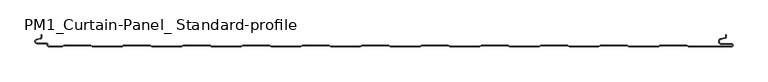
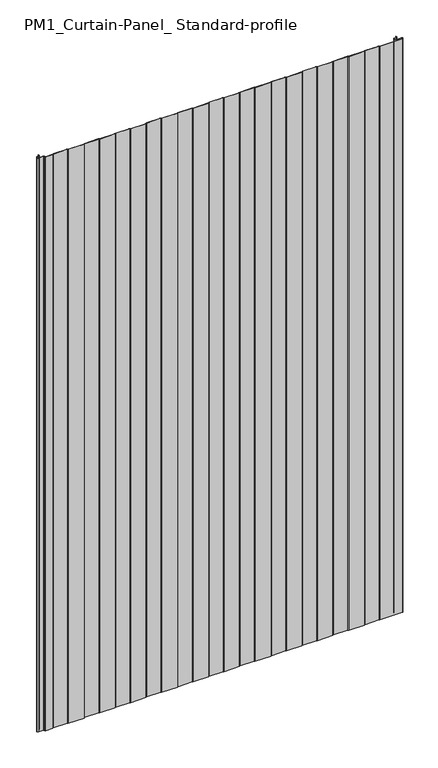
"""IFC4 building model written with IfcOpenShell, lengths in millimetres: plate geometry, PM1_Curtain-Panel_ Standard-profile : ACH_PM1_Acoustic-Sectioning-Panel_120M."""

from ifc_helpers import new_model, si_unit, frame, origin, place, context, project, spatial, polyline, circle_curve, source, transform, mapped, element, save
from ifc_brep_helpers import plane_surface, cylinder_surface, revolved_surface, advanced_brep


def pm1_curtain_panel_standard_profile_5ba5febf(model_context):
    return source(origin(), model_context, "Body", "AdvancedBrep", [
        advanced_brep(
        [(-562.4, -120.0, 1945.7507136), (-539.3999999, -120.0, 1945.7507136), (-536.8019223, -118.5, 1945.7507136), (-492.0019247, -118.5, 1945.7507136), (-489.4038471, -120.0, 1945.7507136), (-439.3999999, -120.0, 1945.7507136), (-436.8019223, -118.5, 1945.7507136), (-392.0019247, -118.5, 1945.7507136), (-389.4038471, -120.0, 1945.7507136), (-339.3999999, -120.0, 1945.7507136), (-336.8019223, -118.5, 1945.7507136), (-292.0019247, -118.5, 1945.7507136), (-289.4038471, -120.0, 1945.7507136), (-239.3999999, -120.0, 1945.7507136), (-236.8019223, -118.5, 1945.7507136), (-192.0019247, -118.5, 1945.7507136), (-189.4038471, -120.0, 1945.7507136), (-139.3999999, -120.0, 1945.7507136), (-136.8019223, -118.5, 1945.7507136), (-92.0019247, -118.5, 1945.7507136), (-89.4038471, -120.0, 1945.7507136), (-39.3999999, -120.0, 1945.7507136), (-36.8019223, -118.5, 1945.7507136), (7.9980753, -118.5, 1945.7507136), (10.5961529, -120.0, 1945.7507136), (60.6000001, -120.0, 1945.7507136), (63.1980777, -118.5, 1945.7507136), (107.9980753, -118.5, 1945.7507136), (110.5961529, -120.0, 1945.7507136), (160.6000001, -120.0, 1945.7507136), (163.1980777, -118.5, 1945.7507136), (207.9980753, -118.5, 1945.7507136), (210.5961529, -120.0, 1945.7507136), (260.6000001, -120.0, 1945.7507136), (263.1980777, -118.5, 1945.7507136), (307.9980753, -118.5, 1945.7507136), (310.5961529, -120.0, 1945.7507136), (360.6000001, -120.0, 1945.7507136), (363.1980777, -118.5, 1945.7507136), (407.9980753, -118.5, 1945.7507136), (410.5961529, -120.0, 1945.7507136), (460.6000001, -120.0, 1945.7507136), (463.1980777, -118.5, 1945.7507136), (507.9980753, -118.5, 1945.7507136), (510.5961529, -120.0, 1945.7507136), (583.1, -120.0, 1945.7507136), (585.6, -117.5, 1945.7507136), (583.1, -115.0, 1945.7507136), (566.1, -115.0, 1945.7507136), (565.4054075, -107.060769, 1945.7507136), (571.8514851, -105.924152, 1945.7507136), (574.0, -103.363652, 1945.7507136), (574.0, -100.0, 1945.7507136), (573.2, -100.0, 1945.7507136), (573.2, -103.363652, 1945.7507136), (571.7125666, -105.136306, 1945.7507136), (565.266489, -106.2729229, 1945.7507136), (566.1, -115.8, 1945.7507136), (583.1, -115.8, 1945.7507136), (583.1, -119.2, 1945.7507136), (510.8105122, -119.2, 1945.7507136), (508.2124346, -117.7, 1945.7507136), (462.9837184, -117.7, 1945.7507136), (460.3856408, -119.2, 1945.7507136), (410.8105122, -119.2, 1945.7507136), (408.2124346, -117.7, 1945.7507136), (362.9837184, -117.7, 1945.7507136), (360.3856408, -119.2, 1945.7507136), (310.8105122, -119.2, 1945.7507136), (308.2124346, -117.7, 1945.7507136), (262.9837184, -117.7, 1945.7507136), (260.3856408, -119.2, 1945.7507136), (210.8105122, -119.2, 1945.7507136), (208.2124346, -117.7, 1945.7507136), (162.9837184, -117.7, 1945.7507136), (160.3856408, -119.2, 1945.7507136), (110.8105122, -119.2, 1945.7507136), (108.2124346, -117.7, 1945.7507136), (62.9837184, -117.7, 1945.7507136), (60.3856408, -119.2, 1945.7507136), (10.8105122, -119.2, 1945.7507136), (8.2124346, -117.7, 1945.7507136), (-37.0162816, -117.7, 1945.7507136), (-39.6143592, -119.2, 1945.7507136), (-89.1894878, -119.2, 1945.7507136), (-91.7875654, -117.7, 1945.7507136), (-137.0162816, -117.7, 1945.7507136), (-139.6143592, -119.2, 1945.7507136), (-189.1894878, -119.2, 1945.7507136), (-191.7875654, -117.7, 1945.7507136), (-237.0162816, -117.7, 1945.7507136), (-239.6143592, -119.2, 1945.7507136), (-289.1894878, -119.2, 1945.7507136), (-291.7875654, -117.7, 1945.7507136), (-337.0162816, -117.7, 1945.7507136), (-339.6143592, -119.2, 1945.7507136), (-389.1894878, -119.2, 1945.7507136), (-391.7875654, -117.7, 1945.7507136), (-437.0162816, -117.7, 1945.7507136), (-439.6143592, -119.2, 1945.7507136), (-489.1894878, -119.2, 1945.7507136), (-491.7875654, -117.7, 1945.7507136), (-537.0162816, -117.7, 1945.7507136), (-539.6143592, -119.2, 1945.7507136), (-562.4, -119.2, 1945.7507136), (-563.6, -118.0, 1945.7507136), (-563.6, -116.6, 1945.7507136), (-566.4, -113.8, 1945.7507136), (-581.9, -113.8, 1945.7507136), (-582.529863, -108.2717638, 1945.7507136), (-576.370137, -106.849679, 1945.7507136), (-574.2, -104.121443, 1945.7507136), (-574.2, -100.0, 1945.7507136), (-575.0, -100.0, 1945.7507136), (-575.0, -104.121443, 1945.7507136), (-576.5500978, -106.0701831, 1945.7507136), (-582.7098239, -107.492268, 1945.7507136), (-581.9, -114.6, 1945.7507136), (-566.4, -114.6, 1945.7507136), (-564.4, -116.6, 1945.7507136), (-564.4, -118.0, 1945.7507136), (-562.4, -120.0, 0.0), (-564.4, -118.0, 0.0), (-564.4, -116.6, 0.0), (-566.4, -114.6, 0.0), (-581.9, -114.6, 0.0), (-582.7098239, -107.4922678, 0.0), (-576.5500979, -106.070183, 0.0), (-575.0, -104.121443, 0.0), (-575.0, -100.0, 0.0), (-574.2, -100.0, 0.0), (-574.2, -104.121443, 0.0), (-576.370137, -106.8496792, 0.0), (-582.529863, -108.271764, 0.0), (-581.9, -113.8, 0.0), (-566.4, -113.8, 0.0), (-563.6, -116.6, 0.0), (-563.6, -118.0, 0.0), (-562.4, -119.2, 0.0), (-539.6143592, -119.2, 0.0), (-537.0162816, -117.7, 0.0), (-491.7875654, -117.7, 0.0), (-489.1894878, -119.2, 0.0), (-439.6143592, -119.2, 0.0), (-437.0162816, -117.7, 0.0), (-391.7875654, -117.7, 0.0), (-389.1894878, -119.2, 0.0), (-339.6143592, -119.2, 0.0), (-337.0162816, -117.7, 0.0), (-291.7875654, -117.7, 0.0), (-289.1894878, -119.2, 0.0), (-239.6143592, -119.2, 0.0), (-237.0162816, -117.7, 0.0), (-191.7875654, -117.7, 0.0), (-189.1894878, -119.2, 0.0), (-139.6143592, -119.2, 0.0), (-137.0162816, -117.7, 0.0), (-91.7875654, -117.7, 0.0), (-89.1894878, -119.2, 0.0), (-39.6143592, -119.2, 0.0), (-37.0162816, -117.7, 0.0), (8.2124346, -117.7, 0.0), (10.8105122, -119.2, 0.0), (60.3856408, -119.2, 0.0), (62.9837184, -117.7, 0.0), (108.2124346, -117.7, 0.0), (110.8105122, -119.2, 0.0), (160.3856408, -119.2, 0.0), (162.9837184, -117.7, 0.0), (208.2124346, -117.7, 0.0), (210.8105122, -119.2, 0.0), (260.3856408, -119.2, 0.0), (262.9837184, -117.7, 0.0), (308.2124346, -117.7, 0.0), (310.8105122, -119.2, 0.0), (360.3856408, -119.2, 0.0), (362.9837184, -117.7, 0.0), (408.2124346, -117.7, 0.0), (410.8105122, -119.2, 0.0), (460.3856408, -119.2, 0.0), (462.9837184, -117.7, 0.0), (508.2124346, -117.7, 0.0), (510.8105122, -119.2, 0.0), (583.1, -119.2, 0.0), (583.1, -115.8, 0.0), (566.1, -115.8, 0.0), (565.266489, -106.2729227, 0.0), (571.7125666, -105.1363058, 0.0), (573.2, -103.363652, 0.0), (573.2, -100.0, 0.0), (574.0, -100.0, 0.0), (574.0, -103.363652, 0.0), (571.8514851, -105.9241522, 0.0), (565.4054075, -107.0607691, 0.0), (566.1, -115.0, 0.0), (583.1, -115.0, 0.0), (585.6, -117.5, 0.0), (583.1, -120.0, 0.0), (510.5961529, -120.0, 0.0), (507.9980753, -118.5, 0.0), (463.1980777, -118.5, 0.0), (460.6000001, -120.0, 0.0), (410.5961529, -120.0, 0.0), (407.9980753, -118.5, 0.0), (363.1980777, -118.5, 0.0), (360.6000001, -120.0, 0.0), (310.5961529, -120.0, 0.0), (307.9980753, -118.5, 0.0), (263.1980777, -118.5, 0.0), (260.6000001, -120.0, 0.0), (210.5961529, -120.0, 0.0), (207.9980753, -118.5, 0.0), (163.1980777, -118.5, 0.0), (160.6000001, -120.0, 0.0), (110.5961529, -120.0, 0.0), (107.9980753, -118.5, 0.0), (63.1980777, -118.5, 0.0), (60.6000001, -120.0, 0.0), (10.5961529, -120.0, 0.0), (7.9980753, -118.5, 0.0), (-36.8019223, -118.5, 0.0), (-39.3999999, -120.0, 0.0), (-89.4038471, -120.0, 0.0), (-92.0019247, -118.5, 0.0), (-136.8019223, -118.5, 0.0), (-139.3999999, -120.0, 0.0), (-189.4038471, -120.0, 0.0), (-192.0019247, -118.5, 0.0), (-236.8019223, -118.5, 0.0), (-239.3999999, -120.0, 0.0), (-289.4038471, -120.0, 0.0), (-292.0019247, -118.5, 0.0), (-336.8019223, -118.5, 0.0), (-339.3999999, -120.0, 0.0), (-389.4038471, -120.0, 0.0), (-392.0019247, -118.5, 0.0), (-436.8019223, -118.5, 0.0), (-439.3999999, -120.0, 0.0), (-489.4038471, -120.0, 0.0), (-492.0019247, -118.5, 0.0), (-536.8019223, -118.5, 0.0), (-539.3999999, -120.0, 0.0)],
        [
            (0, 1),
            (1, 2),
            (2, 3),
            (3, 4),
            (4, 5),
            (5, 6),
            (6, 7),
            (7, 8),
            (8, 9),
            (9, 10),
            (10, 11),
            (11, 12),
            (12, 13),
            (13, 14),
            (14, 15),
            (15, 16),
            (16, 17),
            (17, 18),
            (18, 19),
            (19, 20),
            (20, 21),
            (21, 22),
            (22, 23),
            (23, 24),
            (24, 25),
            (25, 26),
            (26, 27),
            (27, 28),
            (28, 29),
            (29, 30),
            (30, 31),
            (31, 32),
            (32, 33),
            (33, 34),
            (34, 35),
            (35, 36),
            (36, 37),
            (37, 38),
            (38, 39),
            (39, 40),
            (40, 41),
            (41, 42),
            (42, 43),
            (43, 44),
            (44, 45),
            (45, 46, circle_curve(frame((583.1, -117.5, 1945.7507136), z_axis=(0.0, 0.0, 1.0), x_axis=(1.0, 0.0, 0.0)), 2.5)),
            (46, 47, circle_curve(frame((583.1, -117.5, 1945.7507136), z_axis=(0.0, 0.0, 1.0), x_axis=(1.0, 0.0, 0.0)), 2.5)),
            (47, 48),
            (48, 49, circle_curve(frame((566.1, -111.0, 1945.7507136), z_axis=(0.0, 0.0, -1.0), x_axis=(1.0, 0.0, 0.0)), 4.0)),
            (49, 50),
            (50, 51, circle_curve(frame((571.4, -103.363652, 1945.7507136), z_axis=(0.0, 0.0, 1.0), x_axis=(1.0, 0.0, 0.0)), 2.6)),
            (51, 52),
            (52, 53),
            (53, 54),
            (54, 55, circle_curve(frame((571.4, -103.363652, 1945.7507136), z_axis=(0.0, 0.0, -1.0), x_axis=(1.0, 0.0, 0.0)), 1.8)),
            (55, 56),
            (56, 57, circle_curve(frame((566.1, -111.0, 1945.7507136), z_axis=(0.0, 0.0, 1.0), x_axis=(1.0, 0.0, 0.0)), 4.8)),
            (57, 58),
            (58, 59, circle_curve(frame((583.1, -117.5, 1945.7507136), z_axis=(0.0, 0.0, -1.0), x_axis=(1.0, 0.0, 0.0)), 1.7)),
            (59, 60),
            (60, 61),
            (61, 62),
            (62, 63),
            (63, 64),
            (64, 65),
            (65, 66),
            (66, 67),
            (67, 68),
            (68, 69),
            (69, 70),
            (70, 71),
            (71, 72),
            (72, 73),
            (73, 74),
            (74, 75),
            (75, 76),
            (76, 77),
            (77, 78),
            (78, 79),
            (79, 80),
            (80, 81),
            (81, 82),
            (82, 83),
            (83, 84),
            (84, 85),
            (85, 86),
            (86, 87),
            (87, 88),
            (88, 89),
            (89, 90),
            (90, 91),
            (91, 92),
            (92, 93),
            (93, 94),
            (94, 95),
            (95, 96),
            (96, 97),
            (97, 98),
            (98, 99),
            (99, 100),
            (100, 101),
            (101, 102),
            (102, 103),
            (103, 104),
            (104, 105, circle_curve(frame((-562.4, -118.0, 1945.7507136), z_axis=(0.0, 0.0, -1.0), x_axis=(1.0, 0.0, 0.0)), 1.2)),
            (105, 106),
            (106, 107, circle_curve(frame((-566.4, -116.6, 1945.7507136), z_axis=(0.0, 0.0, 1.0), x_axis=(1.0, 0.0, 0.0)), 2.8)),
            (107, 108),
            (108, 109, circle_curve(frame((-581.9, -111.0, 1945.7507136), z_axis=(0.0, 0.0, -1.0), x_axis=(1.0, 0.0, 0.0)), 2.8)),
            (109, 110),
            (110, 111, circle_curve(frame((-577.0, -104.121443, 1945.7507136), z_axis=(0.0, 0.0, 1.0), x_axis=(1.0, 0.0, 0.0)), 2.8)),
            (111, 112),
            (112, 113),
            (113, 114),
            (114, 115, circle_curve(frame((-577.0, -104.121443, 1945.7507136), z_axis=(0.0, 0.0, -1.0), x_axis=(1.0, 0.0, 0.0)), 2.0)),
            (115, 116),
            (116, 117, circle_curve(frame((-581.9, -111.0, 1945.7507136), z_axis=(0.0, 0.0, 1.0), x_axis=(1.0, 0.0, 0.0)), 3.6)),
            (117, 118),
            (118, 119, circle_curve(frame((-566.4, -116.6, 1945.7507136), z_axis=(0.0, 0.0, -1.0), x_axis=(1.0, 0.0, 0.0)), 2.0)),
            (119, 120),
            (120, 0, circle_curve(frame((-562.4, -118.0, 1945.7507136), z_axis=(0.0, 0.0, 1.0), x_axis=(1.0, 0.0, 0.0)), 2.0)),
            (121, 122, circle_curve(frame((-562.4, -118.0, 0.0), z_axis=(0.0, 0.0, -1.0), x_axis=(1.0, 0.0, 0.0)), 2.0)),
            (122, 123),
            (123, 124, circle_curve(frame((-566.4, -116.6, 0.0), z_axis=(0.0, 0.0, 1.0), x_axis=(1.0, 0.0, 0.0)), 2.0)),
            (124, 125),
            (125, 126, circle_curve(frame((-581.9, -111.0, 0.0), z_axis=(0.0, 0.0, -1.0), x_axis=(1.0, 0.0, 0.0)), 3.6)),
            (126, 127),
            (127, 128, circle_curve(frame((-577.0, -104.121443, 0.0), z_axis=(0.0, 0.0, 1.0), x_axis=(1.0, 0.0, 0.0)), 2.0)),
            (128, 129),
            (129, 130),
            (130, 131),
            (131, 132, circle_curve(frame((-577.0, -104.121443, 0.0), z_axis=(0.0, 0.0, -1.0), x_axis=(1.0, 0.0, 0.0)), 2.8)),
            (132, 133),
            (133, 134, circle_curve(frame((-581.9, -111.0, 0.0), z_axis=(0.0, 0.0, 1.0), x_axis=(1.0, 0.0, 0.0)), 2.8)),
            (134, 135),
            (135, 136, circle_curve(frame((-566.4, -116.6, 0.0), z_axis=(0.0, 0.0, -1.0), x_axis=(1.0, 0.0, 0.0)), 2.8)),
            (136, 137),
            (137, 138, circle_curve(frame((-562.4, -118.0, 0.0), z_axis=(0.0, 0.0, 1.0), x_axis=(1.0, 0.0, 0.0)), 1.2)),
            (138, 139),
            (139, 140),
            (140, 141),
            (141, 142),
            (142, 143),
            (143, 144),
            (144, 145),
            (145, 146),
            (146, 147),
            (147, 148),
            (148, 149),
            (149, 150),
            (150, 151),
            (151, 152),
            (152, 153),
            (153, 154),
            (154, 155),
            (155, 156),
            (156, 157),
            (157, 158),
            (158, 159),
            (159, 160),
            (160, 161),
            (161, 162),
            (162, 163),
            (163, 164),
            (164, 165),
            (165, 166),
            (166, 167),
            (167, 168),
            (168, 169),
            (169, 170),
            (170, 171),
            (171, 172),
            (172, 173),
            (173, 174),
            (174, 175),
            (175, 176),
            (176, 177),
            (177, 178),
            (178, 179),
            (179, 180),
            (180, 181),
            (181, 182),
            (182, 183),
            (183, 184, circle_curve(frame((583.1, -117.5, 0.0), z_axis=(0.0, 0.0, 1.0), x_axis=(1.0, 0.0, 0.0)), 1.7)),
            (184, 185),
            (185, 186, circle_curve(frame((566.1, -111.0, 0.0), z_axis=(0.0, 0.0, -1.0), x_axis=(1.0, 0.0, 0.0)), 4.8)),
            (186, 187),
            (187, 188, circle_curve(frame((571.4, -103.363652, 0.0), z_axis=(0.0, 0.0, 1.0), x_axis=(1.0, 0.0, 0.0)), 1.8)),
            (188, 189),
            (189, 190),
            (190, 191),
            (191, 192, circle_curve(frame((571.4, -103.363652, 0.0), z_axis=(0.0, 0.0, -1.0), x_axis=(1.0, 0.0, 0.0)), 2.6)),
            (192, 193),
            (193, 194, circle_curve(frame((566.1, -111.0, 0.0), z_axis=(0.0, 0.0, 1.0), x_axis=(1.0, 0.0, 0.0)), 4.0)),
            (194, 195),
            (195, 196, circle_curve(frame((583.1, -117.5, 0.0), z_axis=(0.0, 0.0, -1.0), x_axis=(1.0, 0.0, 0.0)), 2.5)),
            (196, 197, circle_curve(frame((583.1, -117.5, 0.0), z_axis=(0.0, 0.0, -1.0), x_axis=(1.0, 0.0, 0.0)), 2.5)),
            (197, 198),
            (198, 199),
            (199, 200),
            (200, 201),
            (201, 202),
            (202, 203),
            (203, 204),
            (204, 205),
            (205, 206),
            (206, 207),
            (207, 208),
            (208, 209),
            (209, 210),
            (210, 211),
            (211, 212),
            (212, 213),
            (213, 214),
            (214, 215),
            (215, 216),
            (216, 217),
            (217, 218),
            (218, 219),
            (219, 220),
            (220, 221),
            (221, 222),
            (222, 223),
            (223, 224),
            (224, 225),
            (225, 226),
            (226, 227),
            (227, 228),
            (228, 229),
            (229, 230),
            (230, 231),
            (231, 232),
            (232, 233),
            (233, 234),
            (234, 235),
            (235, 236),
            (236, 237),
            (237, 238),
            (238, 239),
            (239, 240),
            (240, 241),
            (241, 121),
            (0, 121),
            (241, 1),
            (240, 2),
            (239, 3),
            (238, 4),
            (237, 5),
            (236, 6),
            (235, 7),
            (234, 8),
            (233, 9),
            (232, 10),
            (231, 11),
            (230, 12),
            (229, 13),
            (228, 14),
            (227, 15),
            (226, 16),
            (225, 17),
            (224, 18),
            (223, 19),
            (222, 20),
            (221, 21),
            (220, 22),
            (219, 23),
            (218, 24),
            (217, 25),
            (216, 26),
            (215, 27),
            (214, 28),
            (213, 29),
            (212, 30),
            (211, 31),
            (210, 32),
            (209, 33),
            (208, 34),
            (207, 35),
            (206, 36),
            (205, 37),
            (204, 38),
            (203, 39),
            (202, 40),
            (201, 41),
            (200, 42),
            (199, 43),
            (198, 44),
            (197, 45),
            (195, 47),
            (194, 48),
            (193, 49),
            (192, 50),
            (191, 51),
            (190, 52),
            (189, 53),
            (188, 54),
            (187, 55),
            (186, 56),
            (185, 57),
            (184, 58),
            (183, 59),
            (182, 60),
            (181, 61),
            (180, 62),
            (179, 63),
            (178, 64),
            (177, 65),
            (176, 66),
            (175, 67),
            (174, 68),
            (173, 69),
            (172, 70),
            (171, 71),
            (170, 72),
            (169, 73),
            (168, 74),
            (167, 75),
            (166, 76),
            (165, 77),
            (164, 78),
            (163, 79),
            (162, 80),
            (161, 81),
            (160, 82),
            (159, 83),
            (158, 84),
            (157, 85),
            (156, 86),
            (155, 87),
            (154, 88),
            (153, 89),
            (152, 90),
            (151, 91),
            (150, 92),
            (149, 93),
            (148, 94),
            (147, 95),
            (146, 96),
            (145, 97),
            (144, 98),
            (143, 99),
            (142, 100),
            (141, 101),
            (140, 102),
            (139, 103),
            (138, 104),
            (137, 105),
            (136, 106),
            (135, 107),
            (134, 108),
            (133, 109),
            (132, 110),
            (131, 111),
            (130, 112),
            (129, 113),
            (128, 114),
            (127, 115),
            (126, 116),
            (125, 117),
            (124, 118),
            (123, 119),
            (122, 120),
        ],
        [
            plane_surface(frame((-575.0, -120.0, 1945.7507136), z_axis=(0.0, 0.0, 1.0), x_axis=(0.0, 1.0, 0.0))),
            plane_surface(frame((-575.0, -120.0, 0.0), z_axis=(0.0, 0.0, -1.0), x_axis=(0.0, 1.0, 0.0))),
            plane_surface(frame((-562.4, -120.0, 1945.7507136), z_axis=(0.0, -1.0, 0.0), x_axis=(0.0, 0.0, -1.0))),
            plane_surface(frame((-539.3999999, -120.0, 1945.7507136), z_axis=(0.49999979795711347, -0.8660255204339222, 0.0), x_axis=(0.0, 0.0, -1.0))),
            plane_surface(frame((-536.8019223, -118.5, 1945.7507136), z_axis=(0.0, -1.0, 0.0), x_axis=(0.0, 0.0, -1.0))),
            plane_surface(frame((-492.0019247, -118.5, 1945.7507136), z_axis=(-0.49999979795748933, -0.8660255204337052, 0.0), x_axis=(0.0, 0.0, -1.0))),
            plane_surface(frame((-489.4038471, -120.0, 1945.7507136), z_axis=(0.0, -1.0, 0.0), x_axis=(0.0, 0.0, -1.0))),
            plane_surface(frame((-439.3999999, -120.0, 1945.7507136), z_axis=(0.49999979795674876, -0.8660255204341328, 0.0), x_axis=(0.0, 0.0, -1.0))),
            plane_surface(frame((-436.8019223, -118.5, 1945.7507136), z_axis=(0.0, -1.0, 0.0), x_axis=(0.0, 0.0, -1.0))),
            plane_surface(frame((-392.0019247, -118.5, 1945.7507136), z_axis=(-0.4999997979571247, -0.8660255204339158, 0.0), x_axis=(0.0, 0.0, -1.0))),
            plane_surface(frame((-389.4038471, -120.0, 1945.7507136), z_axis=(0.0, -1.0, 0.0), x_axis=(0.0, 0.0, -1.0))),
            plane_surface(frame((-339.3999999, -120.0, 1945.7507136), z_axis=(0.49999979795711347, -0.8660255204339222, 0.0), x_axis=(0.0, 0.0, -1.0))),
            plane_surface(frame((-336.8019223, -118.5, 1945.7507136), z_axis=(0.0, -1.0, 0.0), x_axis=(0.0, 0.0, -1.0))),
            plane_surface(frame((-292.0019247, -118.5, 1945.7507136), z_axis=(-0.4999997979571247, -0.8660255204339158, 0.0), x_axis=(0.0, 0.0, -1.0))),
            plane_surface(frame((-289.4038471, -120.0, 1945.7507136), z_axis=(0.0, -1.0, 0.0), x_axis=(0.0, 0.0, -1.0))),
            plane_surface(frame((-239.3999999, -120.0, 1945.7507136), z_axis=(0.49999979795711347, -0.8660255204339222, 0.0), x_axis=(0.0, 0.0, -1.0))),
            plane_surface(frame((-236.8019223, -118.5, 1945.7507136), z_axis=(0.0, -1.0, 0.0), x_axis=(0.0, 0.0, -1.0))),
            plane_surface(frame((-192.0019247, -118.5, 1945.7507136), z_axis=(-0.49999979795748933, -0.8660255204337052, 0.0), x_axis=(0.0, 0.0, -1.0))),
            plane_surface(frame((-189.4038471, -120.0, 1945.7507136), z_axis=(0.0, -1.0, 0.0), x_axis=(0.0, 0.0, -1.0))),
            plane_surface(frame((-139.3999999, -120.0, 1945.7507136), z_axis=(0.49999979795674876, -0.8660255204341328, 0.0), x_axis=(0.0, 0.0, -1.0))),
            plane_surface(frame((-136.8019223, -118.5, 1945.7507136), z_axis=(0.0, -1.0, 0.0), x_axis=(0.0, 0.0, -1.0))),
            plane_surface(frame((-92.0019247, -118.5, 1945.7507136), z_axis=(-0.4999997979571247, -0.8660255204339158, 0.0), x_axis=(0.0, 0.0, -1.0))),
            plane_surface(frame((-89.4038471, -120.0, 1945.7507136), z_axis=(0.0, -1.0, 0.0), x_axis=(0.0, 0.0, -1.0))),
            plane_surface(frame((-39.3999999, -120.0, 1945.7507136), z_axis=(0.49999979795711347, -0.8660255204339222, 0.0), x_axis=(0.0, 0.0, -1.0))),
            plane_surface(frame((-36.8019223, -118.5, 1945.7507136), z_axis=(0.0, -1.0, 0.0), x_axis=(0.0, 0.0, -1.0))),
            plane_surface(frame((7.9980753, -118.5, 1945.7507136), z_axis=(-0.4999997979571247, -0.8660255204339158, 0.0), x_axis=(0.0, 0.0, -1.0))),
            plane_surface(frame((10.5961529, -120.0, 1945.7507136), z_axis=(0.0, -1.0, 0.0), x_axis=(0.0, 0.0, -1.0))),
            plane_surface(frame((60.6000001, -120.0, 1945.7507136), z_axis=(0.49999979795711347, -0.8660255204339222, 0.0), x_axis=(0.0, 0.0, -1.0))),
            plane_surface(frame((63.1980777, -118.5, 1945.7507136), z_axis=(0.0, -1.0, 0.0), x_axis=(0.0, 0.0, -1.0))),
            plane_surface(frame((107.9980753, -118.5, 1945.7507136), z_axis=(-0.49999979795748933, -0.8660255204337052, 0.0), x_axis=(0.0, 0.0, -1.0))),
            plane_surface(frame((110.5961529, -120.0, 1945.7507136), z_axis=(0.0, -1.0, 0.0), x_axis=(0.0, 0.0, -1.0))),
            plane_surface(frame((160.6000001, -120.0, 1945.7507136), z_axis=(0.49999979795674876, -0.8660255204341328, 0.0), x_axis=(0.0, 0.0, -1.0))),
            plane_surface(frame((163.1980777, -118.5, 1945.7507136), z_axis=(0.0, -1.0, 0.0), x_axis=(0.0, 0.0, -1.0))),
            plane_surface(frame((207.9980753, -118.5, 1945.7507136), z_axis=(-0.4999997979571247, -0.8660255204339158, 0.0), x_axis=(0.0, 0.0, -1.0))),
            plane_surface(frame((210.5961529, -120.0, 1945.7507136), z_axis=(0.0, -1.0, 0.0), x_axis=(0.0, 0.0, -1.0))),
            plane_surface(frame((260.6000001, -120.0, 1945.7507136), z_axis=(0.49999979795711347, -0.8660255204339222, 0.0), x_axis=(0.0, 0.0, -1.0))),
            plane_surface(frame((263.1980777, -118.5, 1945.7507136), z_axis=(0.0, -1.0, 0.0), x_axis=(0.0, 0.0, -1.0))),
            plane_surface(frame((307.9980753, -118.5, 1945.7507136), z_axis=(-0.4999997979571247, -0.8660255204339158, 0.0), x_axis=(0.0, 0.0, -1.0))),
            plane_surface(frame((310.5961529, -120.0, 1945.7507136), z_axis=(0.0, -1.0, 0.0), x_axis=(0.0, 0.0, -1.0))),
            plane_surface(frame((360.6000001, -120.0, 1945.7507136), z_axis=(0.49999979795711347, -0.8660255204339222, 0.0), x_axis=(0.0, 0.0, -1.0))),
            plane_surface(frame((363.1980777, -118.5, 1945.7507136), z_axis=(0.0, -1.0, 0.0), x_axis=(0.0, 0.0, -1.0))),
            plane_surface(frame((407.9980753, -118.5, 1945.7507136), z_axis=(-0.49999979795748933, -0.8660255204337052, 0.0), x_axis=(0.0, 0.0, -1.0))),
            plane_surface(frame((410.5961529, -120.0, 1945.7507136), z_axis=(0.0, -1.0, 0.0), x_axis=(0.0, 0.0, -1.0))),
            plane_surface(frame((460.6000001, -120.0, 1945.7507136), z_axis=(0.49999979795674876, -0.8660255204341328, 0.0), x_axis=(0.0, 0.0, -1.0))),
            plane_surface(frame((463.1980777, -118.5, 1945.7507136), z_axis=(0.0, -1.0, 0.0), x_axis=(0.0, 0.0, -1.0))),
            plane_surface(frame((507.9980753, -118.5, 1945.7507136), z_axis=(-0.4999997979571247, -0.8660255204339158, 0.0), x_axis=(0.0, 0.0, -1.0))),
            plane_surface(frame((560.890897, -120.0, 1945.7507136), z_axis=(0.0, -1.0, 0.0), x_axis=(0.0, 0.0, -1.0))),
            cylinder_surface(frame((583.1, -117.5, 1945.7507136), z_axis=(0.0, 0.0, 1.0), x_axis=(1.0, 0.0, 0.0)), 2.5),
            plane_surface(frame((583.1, -115.0, 1945.7507136), z_axis=(0.0, 1.0, 0.0), x_axis=(0.0, 0.0, -1.0))),
            revolved_surface(polyline([(570.1, -111.0, 0.0), (570.1, -111.0, 1945.7507136)]), (566.1, -111.0, 1945.7507136), (0.0, 0.0, -1.0)),
            plane_surface(frame((565.4054075, -107.0607691, 1945.7507136), z_axis=(0.17364813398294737, -0.9848077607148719, 0.0), x_axis=(0.0, 0.0, -1.0))),
            cylinder_surface(frame((571.4, -103.363652, 1945.7507136), z_axis=(0.0, 0.0, 1.0), x_axis=(1.0, 0.0, 0.0)), 2.6),
            plane_surface(frame((574.0, -103.363652, 1945.7507136), z_axis=(1.0, 0.0, 0.0), x_axis=(0.0, 0.0, -1.0))),
            plane_surface(frame((574.0, -100.0, 1945.7507136), z_axis=(0.0, 1.0, 0.0), x_axis=(0.0, 0.0, -1.0))),
            plane_surface(frame((573.2, -100.0, 1945.7507136), z_axis=(-1.0, 0.0, 0.0), x_axis=(0.0, 0.0, -1.0))),
            revolved_surface(polyline([(573.1999999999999, -103.363652, 0.0), (573.1999999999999, -103.363652, 1945.7507136)]), (571.4, -103.363652, 1945.7507136), (0.0, 0.0, -1.0)),
            plane_surface(frame((571.7125666, -105.1363058, 1945.7507136), z_axis=(-0.17364813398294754, 0.9848077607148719, 0.0), x_axis=(0.0, 0.0, -1.0))),
            cylinder_surface(frame((566.1, -111.0, 1945.7507136), z_axis=(0.0, 0.0, 1.0), x_axis=(1.0, 0.0, 0.0)), 4.8),
            plane_surface(frame((566.1, -115.8, 1945.7507136), z_axis=(0.0, -1.0, 0.0), x_axis=(0.0, 0.0, -1.0))),
            revolved_surface(polyline([(584.8000000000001, -117.5, 0.0), (584.8000000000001, -117.5, 1945.7507136)]), (583.1, -117.5, 1945.7507136), (0.0, 0.0, -1.0)),
            plane_surface(frame((560.890897, -119.2, 1945.7507136), z_axis=(0.0, 1.0, 0.0), x_axis=(0.0, 0.0, -1.0))),
            plane_surface(frame((510.8105122, -119.2, 1945.7507136), z_axis=(0.49999979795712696, 0.8660255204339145, 0.0), x_axis=(0.0, 0.0, -1.0))),
            plane_surface(frame((508.2124346, -117.7, 1945.7507136), z_axis=(0.0, 1.0, 0.0), x_axis=(0.0, 0.0, -1.0))),
            plane_surface(frame((462.9837184, -117.7, 1945.7507136), z_axis=(-0.4999997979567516, 0.8660255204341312, 0.0), x_axis=(0.0, 0.0, -1.0))),
            plane_surface(frame((460.3856408, -119.2, 1945.7507136), z_axis=(0.0, 1.0, 0.0), x_axis=(0.0, 0.0, -1.0))),
            plane_surface(frame((410.8105122, -119.2, 1945.7507136), z_axis=(0.4999997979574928, 0.8660255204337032, 0.0), x_axis=(0.0, 0.0, -1.0))),
            plane_surface(frame((408.2124346, -117.7, 1945.7507136), z_axis=(0.0, 1.0, 0.0), x_axis=(0.0, 0.0, -1.0))),
            plane_surface(frame((362.9837184, -117.7, 1945.7507136), z_axis=(-0.49999979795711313, 0.8660255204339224, 0.0), x_axis=(0.0, 0.0, -1.0))),
            plane_surface(frame((360.3856408, -119.2, 1945.7507136), z_axis=(0.0, 1.0, 0.0), x_axis=(0.0, 0.0, -1.0))),
            plane_surface(frame((310.8105122, -119.2, 1945.7507136), z_axis=(0.4999997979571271, 0.8660255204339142, 0.0), x_axis=(0.0, 0.0, -1.0))),
            plane_surface(frame((308.2124346, -117.7, 1945.7507136), z_axis=(0.0, 1.0, 0.0), x_axis=(0.0, 0.0, -1.0))),
            plane_surface(frame((262.9837184, -117.7, 1945.7507136), z_axis=(-0.49999979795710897, 0.8660255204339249, 0.0), x_axis=(0.0, 0.0, -1.0))),
            plane_surface(frame((260.3856408, -119.2, 1945.7507136), z_axis=(0.0, 1.0, 0.0), x_axis=(0.0, 0.0, -1.0))),
            plane_surface(frame((210.8105122, -119.2, 1945.7507136), z_axis=(0.4999997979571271, 0.8660255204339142, 0.0), x_axis=(0.0, 0.0, -1.0))),
            plane_surface(frame((208.2124346, -117.7, 1945.7507136), z_axis=(0.0, 1.0, 0.0), x_axis=(0.0, 0.0, -1.0))),
            plane_surface(frame((162.9837184, -117.7, 1945.7507136), z_axis=(-0.4999997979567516, 0.8660255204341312, 0.0), x_axis=(0.0, 0.0, -1.0))),
            plane_surface(frame((160.3856408, -119.2, 1945.7507136), z_axis=(0.0, 1.0, 0.0), x_axis=(0.0, 0.0, -1.0))),
            plane_surface(frame((110.8105122, -119.2, 1945.7507136), z_axis=(0.49999979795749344, 0.8660255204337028, 0.0), x_axis=(0.0, 0.0, -1.0))),
            plane_surface(frame((108.2124346, -117.7, 1945.7507136), z_axis=(0.0, 1.0, 0.0), x_axis=(0.0, 0.0, -1.0))),
            plane_surface(frame((62.9837184, -117.7, 1945.7507136), z_axis=(-0.49999979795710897, 0.8660255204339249, 0.0), x_axis=(0.0, 0.0, -1.0))),
            plane_surface(frame((60.3856408, -119.2, 1945.7507136), z_axis=(0.0, 1.0, 0.0), x_axis=(0.0, 0.0, -1.0))),
            plane_surface(frame((10.8105122, -119.2, 1945.7507136), z_axis=(0.4999997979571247, 0.8660255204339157, 0.0), x_axis=(0.0, 0.0, -1.0))),
            plane_surface(frame((8.2124346, -117.7, 1945.7507136), z_axis=(0.0, 1.0, 0.0), x_axis=(0.0, 0.0, -1.0))),
            plane_surface(frame((-37.0162816, -117.7, 1945.7507136), z_axis=(-0.49999979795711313, 0.8660255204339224, 0.0), x_axis=(0.0, 0.0, -1.0))),
            plane_surface(frame((-39.6143592, -119.2, 1945.7507136), z_axis=(0.0, 1.0, 0.0), x_axis=(0.0, 0.0, -1.0))),
            plane_surface(frame((-89.1894878, -119.2, 1945.7507136), z_axis=(0.4999997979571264, 0.8660255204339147, 0.0), x_axis=(0.0, 0.0, -1.0))),
            plane_surface(frame((-91.7875654, -117.7, 1945.7507136), z_axis=(0.0, 1.0, 0.0), x_axis=(0.0, 0.0, -1.0))),
            plane_surface(frame((-137.0162816, -117.7, 1945.7507136), z_axis=(-0.49999979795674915, 0.8660255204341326, 0.0), x_axis=(0.0, 0.0, -1.0))),
            plane_surface(frame((-139.6143592, -119.2, 1945.7507136), z_axis=(0.0, 1.0, 0.0), x_axis=(0.0, 0.0, -1.0))),
            plane_surface(frame((-189.1894878, -119.2, 1945.7507136), z_axis=(0.49999979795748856, 0.8660255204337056, 0.0), x_axis=(0.0, 0.0, -1.0))),
            plane_surface(frame((-191.7875654, -117.7, 1945.7507136), z_axis=(0.0, 1.0, 0.0), x_axis=(0.0, 0.0, -1.0))),
            plane_surface(frame((-237.0162816, -117.7, 1945.7507136), z_axis=(-0.4999997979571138, 0.866025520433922, 0.0), x_axis=(0.0, 0.0, -1.0))),
            plane_surface(frame((-239.6143592, -119.2, 1945.7507136), z_axis=(0.0, 1.0, 0.0), x_axis=(0.0, 0.0, -1.0))),
            plane_surface(frame((-289.1894878, -119.2, 1945.7507136), z_axis=(0.49999979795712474, 0.8660255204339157, 0.0), x_axis=(0.0, 0.0, -1.0))),
            plane_surface(frame((-291.7875654, -117.7, 1945.7507136), z_axis=(0.0, 1.0, 0.0), x_axis=(0.0, 0.0, -1.0))),
            plane_surface(frame((-337.0162816, -117.7, 1945.7507136), z_axis=(-0.49999979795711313, 0.8660255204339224, 0.0), x_axis=(0.0, 0.0, -1.0))),
            plane_surface(frame((-339.6143592, -119.2, 1945.7507136), z_axis=(0.0, 1.0, 0.0), x_axis=(0.0, 0.0, -1.0))),
            plane_surface(frame((-389.1894878, -119.2, 1945.7507136), z_axis=(0.49999979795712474, 0.8660255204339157, 0.0), x_axis=(0.0, 0.0, -1.0))),
            plane_surface(frame((-391.7875654, -117.7, 1945.7507136), z_axis=(0.0, 1.0, 0.0), x_axis=(0.0, 0.0, -1.0))),
            plane_surface(frame((-437.0162816, -117.7, 1945.7507136), z_axis=(-0.49999979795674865, 0.8660255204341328, 0.0), x_axis=(0.0, 0.0, -1.0))),
            plane_surface(frame((-439.6143592, -119.2, 1945.7507136), z_axis=(0.0, 1.0, 0.0), x_axis=(0.0, 0.0, -1.0))),
            plane_surface(frame((-489.1894878, -119.2, 1945.7507136), z_axis=(0.49999979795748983, 0.866025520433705, 0.0), x_axis=(0.0, 0.0, -1.0))),
            plane_surface(frame((-491.7875654, -117.7, 1945.7507136), z_axis=(0.0, 1.0, 0.0), x_axis=(0.0, 0.0, -1.0))),
            plane_surface(frame((-537.0162816, -117.7, 1945.7507136), z_axis=(-0.49999979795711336, 0.8660255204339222, 0.0), x_axis=(0.0, 0.0, -1.0))),
            plane_surface(frame((-539.6143592, -119.2, 1945.7507136), z_axis=(0.0, 1.0, 0.0), x_axis=(0.0, 0.0, -1.0))),
            revolved_surface(polyline([(-561.1999999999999, -118.0, 0.0), (-561.1999999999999, -118.0, 1945.7507136)]), (-562.4, -118.0, 1945.7507136), (0.0, 0.0, -1.0)),
            plane_surface(frame((-563.6, -118.0, 1945.7507136), z_axis=(1.0, 0.0, 0.0), x_axis=(0.0, 0.0, -1.0))),
            cylinder_surface(frame((-566.4, -116.6, 1945.7507136), z_axis=(0.0, 0.0, 1.0), x_axis=(1.0, 0.0, 0.0)), 2.8),
            plane_surface(frame((-566.4, -113.8, 1945.7507136), z_axis=(0.0, 1.0, 0.0), x_axis=(0.0, 0.0, -1.0))),
            revolved_surface(polyline([(-579.1, -111.0, 0.0), (-579.1, -111.0, 1945.7507136)]), (-581.9, -111.0, 1945.7507136), (0.0, 0.0, -1.0)),
            plane_surface(frame((-582.529863, -108.271764, 1945.7507136), z_axis=(0.2249510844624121, -0.9743700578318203, 0.0), x_axis=(0.0, 0.0, -1.0))),
            cylinder_surface(frame((-577.0, -104.121443, 1945.7507136), z_axis=(0.0, 0.0, 1.0), x_axis=(1.0, 0.0, 0.0)), 2.8),
            plane_surface(frame((-574.2, -104.121443, 1945.7507136), z_axis=(1.0, 0.0, 0.0), x_axis=(0.0, 0.0, -1.0))),
            plane_surface(frame((-574.2, -100.0, 1945.7507136), z_axis=(0.0, 1.0, 0.0), x_axis=(0.0, 0.0, -1.0))),
            plane_surface(frame((-575.0, -100.0, 1945.7507136), z_axis=(-1.0, 0.0, 0.0), x_axis=(0.0, 0.0, -1.0))),
            revolved_surface(polyline([(-575.0, -104.121443, 0.0), (-575.0, -104.121443, 1945.7507136)]), (-577.0, -104.121443, 1945.7507136), (0.0, 0.0, -1.0)),
            plane_surface(frame((-576.5500979, -106.070183, 1945.7507136), z_axis=(-0.22495108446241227, 0.9743700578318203, 0.0), x_axis=(0.0, 0.0, -1.0))),
            cylinder_surface(frame((-581.9, -111.0, 1945.7507136), z_axis=(0.0, 0.0, 1.0), x_axis=(1.0, 0.0, 0.0)), 3.6),
            plane_surface(frame((-581.9, -114.6, 1945.7507136), z_axis=(0.0, -1.0, 0.0), x_axis=(0.0, 0.0, -1.0))),
            revolved_surface(polyline([(-564.4, -116.6, 0.0), (-564.4, -116.6, 1945.7507136)]), (-566.4, -116.6, 1945.7507136), (0.0, 0.0, -1.0)),
            plane_surface(frame((-564.4, -116.6, 1945.7507136), z_axis=(-1.0, 0.0, 0.0), x_axis=(0.0, 0.0, -1.0))),
            cylinder_surface(frame((-562.4, -118.0, 1945.7507136), z_axis=(0.0, 0.0, 1.0), x_axis=(1.0, 0.0, 0.0)), 2.0),
        ],
        [
            (0, [[1, 2, 3, 4, 5, 6, 7, 8, 9, 10, 11, 12, 13, 14, 15, 16, 17, 18, 19, 20, 21, 22, 23, 24, 25, 26, 27, 28, 29, 30, 31, 32, 33, 34, 35, 36, 37, 38, 39, 40, 41, 42, 43, 44, 45, 46, 47, 48, 49, 50, 51, 52, 53, 54, 55, 56, 57, 58, 59, 60, 61, 62, 63, 64, 65, 66, 67, 68, 69, 70, 71, 72, 73, 74, 75, 76, 77, 78, 79, 80, 81, 82, 83, 84, 85, 86, 87, 88, 89, 90, 91, 92, 93, 94, 95, 96, 97, 98, 99, 100, 101, 102, 103, 104, 105, 106, 107, 108, 109, 110, 111, 112, 113, 114, 115, 116, 117, 118, 119, 120, 121]]),
            (1, [[122, 123, 124, 125, 126, 127, 128, 129, 130, 131, 132, 133, 134, 135, 136, 137, 138, 139, 140, 141, 142, 143, 144, 145, 146, 147, 148, 149, 150, 151, 152, 153, 154, 155, 156, 157, 158, 159, 160, 161, 162, 163, 164, 165, 166, 167, 168, 169, 170, 171, 172, 173, 174, 175, 176, 177, 178, 179, 180, 181, 182, 183, 184, 185, 186, 187, 188, 189, 190, 191, 192, 193, 194, 195, 196, 197, 198, 199, 200, 201, 202, 203, 204, 205, 206, 207, 208, 209, 210, 211, 212, 213, 214, 215, 216, 217, 218, 219, 220, 221, 222, 223, 224, 225, 226, 227, 228, 229, 230, 231, 232, 233, 234, 235, 236, 237, 238, 239, 240, 241, 242]]),
            (2, [[-1, 243, -242, 244]]),
            (3, [[-2, -244, -241, 245]]),
            (4, [[-3, -245, -240, 246]]),
            (5, [[-4, -246, -239, 247]]),
            (6, [[-5, -247, -238, 248]]),
            (7, [[-6, -248, -237, 249]]),
            (8, [[-7, -249, -236, 250]]),
            (9, [[-8, -250, -235, 251]]),
            (10, [[-9, -251, -234, 252]]),
            (11, [[-10, -252, -233, 253]]),
            (12, [[-11, -253, -232, 254]]),
            (13, [[-12, -254, -231, 255]]),
            (14, [[-13, -255, -230, 256]]),
            (15, [[-14, -256, -229, 257]]),
            (16, [[-15, -257, -228, 258]]),
            (17, [[-16, -258, -227, 259]]),
            (18, [[-17, -259, -226, 260]]),
            (19, [[-18, -260, -225, 261]]),
            (20, [[-19, -261, -224, 262]]),
            (21, [[-20, -262, -223, 263]]),
            (22, [[-21, -263, -222, 264]]),
            (23, [[-22, -264, -221, 265]]),
            (24, [[-23, -265, -220, 266]]),
            (25, [[-24, -266, -219, 267]]),
            (26, [[-25, -267, -218, 268]]),
            (27, [[-26, -268, -217, 269]]),
            (28, [[-27, -269, -216, 270]]),
            (29, [[-28, -270, -215, 271]]),
            (30, [[-29, -271, -214, 272]]),
            (31, [[-30, -272, -213, 273]]),
            (32, [[-31, -273, -212, 274]]),
            (33, [[-32, -274, -211, 275]]),
            (34, [[-33, -275, -210, 276]]),
            (35, [[-34, -276, -209, 277]]),
            (36, [[-35, -277, -208, 278]]),
            (37, [[-36, -278, -207, 279]]),
            (38, [[-37, -279, -206, 280]]),
            (39, [[-38, -280, -205, 281]]),
            (40, [[-39, -281, -204, 282]]),
            (41, [[-40, -282, -203, 283]]),
            (42, [[-41, -283, -202, 284]]),
            (43, [[-42, -284, -201, 285]]),
            (44, [[-43, -285, -200, 286]]),
            (45, [[-44, -286, -199, 287]]),
            (46, [[-45, -287, -198, 288]]),
            (47, [[-288, -197, -196, 289, -47, -46]]),
            (48, [[-48, -289, -195, 290]]),
            (49, [[-49, -290, -194, 291]]),
            (50, [[-50, -291, -193, 292]]),
            (51, [[-51, -292, -192, 293]]),
            (52, [[-52, -293, -191, 294]]),
            (53, [[-53, -294, -190, 295]]),
            (54, [[-54, -295, -189, 296]]),
            (55, [[-55, -296, -188, 297]]),
            (56, [[-56, -297, -187, 298]]),
            (57, [[-57, -298, -186, 299]]),
            (58, [[-58, -299, -185, 300]]),
            (59, [[-59, -300, -184, 301]]),
            (60, [[-60, -301, -183, 302]]),
            (61, [[-61, -302, -182, 303]]),
            (62, [[-62, -303, -181, 304]]),
            (63, [[-63, -304, -180, 305]]),
            (64, [[-64, -305, -179, 306]]),
            (65, [[-65, -306, -178, 307]]),
            (66, [[-66, -307, -177, 308]]),
            (67, [[-67, -308, -176, 309]]),
            (68, [[-68, -309, -175, 310]]),
            (69, [[-69, -310, -174, 311]]),
            (70, [[-70, -311, -173, 312]]),
            (71, [[-71, -312, -172, 313]]),
            (72, [[-72, -313, -171, 314]]),
            (73, [[-73, -314, -170, 315]]),
            (74, [[-74, -315, -169, 316]]),
            (75, [[-75, -316, -168, 317]]),
            (76, [[-76, -317, -167, 318]]),
            (77, [[-77, -318, -166, 319]]),
            (78, [[-78, -319, -165, 320]]),
            (79, [[-79, -320, -164, 321]]),
            (80, [[-80, -321, -163, 322]]),
            (81, [[-81, -322, -162, 323]]),
            (82, [[-82, -323, -161, 324]]),
            (83, [[-83, -324, -160, 325]]),
            (84, [[-84, -325, -159, 326]]),
            (85, [[-85, -326, -158, 327]]),
            (86, [[-86, -327, -157, 328]]),
            (87, [[-87, -328, -156, 329]]),
            (88, [[-88, -329, -155, 330]]),
            (89, [[-89, -330, -154, 331]]),
            (90, [[-90, -331, -153, 332]]),
            (91, [[-91, -332, -152, 333]]),
            (92, [[-92, -333, -151, 334]]),
            (93, [[-93, -334, -150, 335]]),
            (94, [[-94, -335, -149, 336]]),
            (95, [[-95, -336, -148, 337]]),
            (96, [[-96, -337, -147, 338]]),
            (97, [[-97, -338, -146, 339]]),
            (98, [[-98, -339, -145, 340]]),
            (99, [[-99, -340, -144, 341]]),
            (100, [[-100, -341, -143, 342]]),
            (101, [[-101, -342, -142, 343]]),
            (102, [[-102, -343, -141, 344]]),
            (103, [[-103, -344, -140, 345]]),
            (104, [[-104, -345, -139, 346]]),
            (105, [[-105, -346, -138, 347]]),
            (106, [[-106, -347, -137, 348]]),
            (107, [[-107, -348, -136, 349]]),
            (108, [[-108, -349, -135, 350]]),
            (109, [[-109, -350, -134, 351]]),
            (110, [[-110, -351, -133, 352]]),
            (111, [[-111, -352, -132, 353]]),
            (112, [[-112, -353, -131, 354]]),
            (113, [[-113, -354, -130, 355]]),
            (114, [[-114, -355, -129, 356]]),
            (115, [[-115, -356, -128, 357]]),
            (116, [[-116, -357, -127, 358]]),
            (117, [[-117, -358, -126, 359]]),
            (118, [[-118, -359, -125, 360]]),
            (119, [[-119, -360, -124, 361]]),
            (120, [[-120, -361, -123, 362]]),
            (121, [[-121, -362, -122, -243]]),
        ],
    ),
    ])


if __name__ == "__main__":
    model = new_model("IFC4")
    model_context = context("Model", 3, world=origin())
    ifc_project = project(units=[si_unit("LENGTHUNIT", "METRE", prefix="MILLI")], contexts=[model_context])
    site = spatial("IfcSite", under=ifc_project)
    building = spatial("IfcBuilding", under=site)
    placement = place(None, origin())
    pm1_curtain_panel_standard_profile_shape = pm1_curtain_panel_standard_profile_5ba5febf(model_context)
    element("IfcPlate", 1, ObjectType="PM1_Curtain-Panel_ Standard-profile : ACH_PM1_Acoustic-Sectioning-Panel_120M", at=placement, inside=building, context=model_context, shape_type="MappedRepresentation", body=[
        mapped(pm1_curtain_panel_standard_profile_shape, transform((0.0, 0.0, 0.0), x_axis=(1.0, 0.0, 0.0), y_axis=(0.0, 1.0, 0.0), z_axis=(0.0, 0.0, 1.0))),
    ])
    save(model, "model.ifc")
